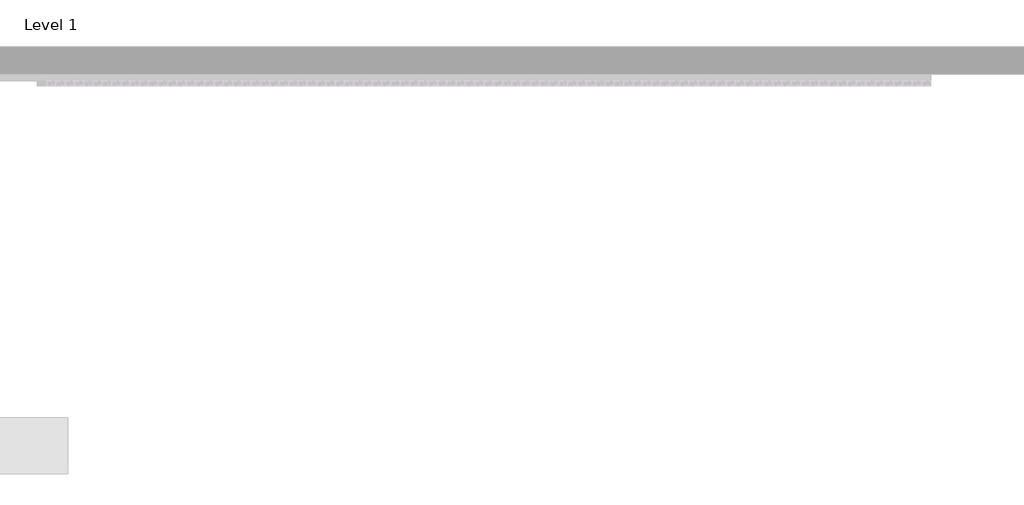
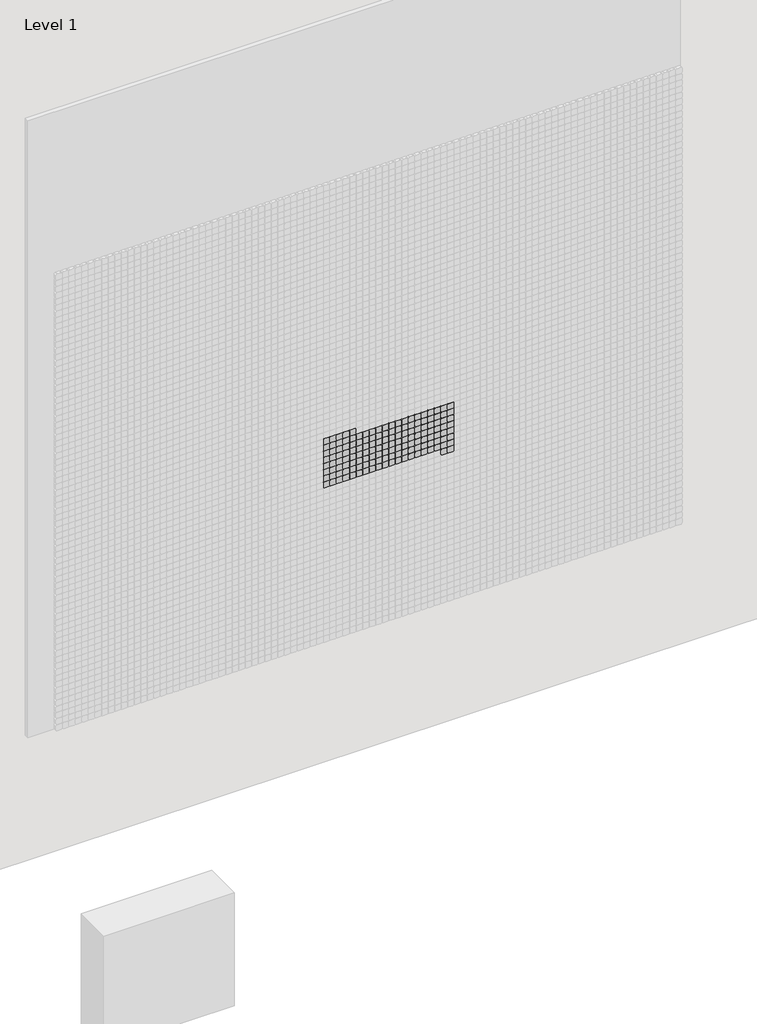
# One storey, part 44 of 71: 147 proxies.
"""IFC4 building model written with IfcOpenShell, lengths in millimetres."""

from ifc_helpers import new_model, si_unit, origin, place, context, project, spatial, transform, mapped, element, save
from components import generic_models_afde289c

model = new_model("IFC4")

# Units and contexts
model_context = context("Model", 3, world=origin())
ifc_project = project(units=[si_unit("LENGTHUNIT", "METRE", prefix="MILLI")], contexts=[model_context])

# Site, building, storey
site = spatial("IfcSite", under=ifc_project)
building = spatial("IfcBuilding", under=site)
storey = spatial("IfcBuildingStorey", under=building, Name="Level 1", Elevation=0.0)

# Proxies
placement = place(None, origin())
generic_models_shape = generic_models_afde289c(model_context)
element("IfcBuildingElementProxy", 1, Name="Pixel_M : Pixel_M", ObjectType="Pixel_M : Pixel_M", at=placement, inside=storey, context=model_context, shape_type="MappedRepresentation", body=[
    mapped(generic_models_shape, transform((7212.4280941, -75.0, 2616.3566215), x_axis=(1.0, 0.0, 0.0), y_axis=(0.0, 0.0, 1.0), z_axis=(0.0, -1.0, 0.0))),
])
element("IfcBuildingElementProxy", 2, Name="Pixel_M : Pixel_M", ObjectType="Pixel_M : Pixel_M", at=placement, inside=storey, context=model_context, shape_type="MappedRepresentation", body=[
    mapped(generic_models_shape, transform((7162.4280941, -75.0, 2616.3566215), x_axis=(1.0, 0.0, 0.0), y_axis=(0.0, 0.0, 1.0), z_axis=(0.0, -1.0, 0.0))),
])
element("IfcBuildingElementProxy", 3, Name="Pixel_M : Pixel_M", ObjectType="Pixel_M : Pixel_M", at=placement, inside=storey, context=model_context, shape_type="MappedRepresentation", body=[
    mapped(generic_models_shape, transform((7112.4280941, -75.0, 2616.3566215), x_axis=(1.0, 0.0, 0.0), y_axis=(0.0, 0.0, 1.0), z_axis=(0.0, -1.0, 0.0))),
])
element("IfcBuildingElementProxy", 4, Name="Pixel_M : Pixel_M", ObjectType="Pixel_M : Pixel_M", at=placement, inside=storey, context=model_context, shape_type="MappedRepresentation", body=[
    mapped(generic_models_shape, transform((7062.4280941, -75.0, 2616.3566215), x_axis=(1.0, 0.0, 0.0), y_axis=(0.0, 0.0, 1.0), z_axis=(0.0, -1.0, 0.0))),
])
element("IfcBuildingElementProxy", 5, Name="Pixel_M : Pixel_M", ObjectType="Pixel_M : Pixel_M", at=placement, inside=storey, context=model_context, shape_type="MappedRepresentation", body=[
    mapped(generic_models_shape, transform((7012.4280941, -75.0, 2616.3566215), x_axis=(1.0, 0.0, 0.0), y_axis=(0.0, 0.0, 1.0), z_axis=(0.0, -1.0, 0.0))),
])
element("IfcBuildingElementProxy", 6, Name="Pixel_M : Pixel_M", ObjectType="Pixel_M : Pixel_M", at=placement, inside=storey, context=model_context, shape_type="MappedRepresentation", body=[
    mapped(generic_models_shape, transform((7962.4280941, -75.0, 2566.3566215), x_axis=(1.0, 0.0, 0.0), y_axis=(0.0, 0.0, 1.0), z_axis=(0.0, -1.0, 0.0))),
])
element("IfcBuildingElementProxy", 7, Name="Pixel_M : Pixel_M", ObjectType="Pixel_M : Pixel_M", at=placement, inside=storey, context=model_context, shape_type="MappedRepresentation", body=[
    mapped(generic_models_shape, transform((7912.4280941, -75.0, 2566.3566215), x_axis=(1.0, 0.0, 0.0), y_axis=(0.0, 0.0, 1.0), z_axis=(0.0, -1.0, 0.0))),
])
element("IfcBuildingElementProxy", 8, Name="Pixel_M : Pixel_M", ObjectType="Pixel_M : Pixel_M", at=placement, inside=storey, context=model_context, shape_type="MappedRepresentation", body=[
    mapped(generic_models_shape, transform((7862.4280941, -75.0, 2566.3566215), x_axis=(1.0, 0.0, 0.0), y_axis=(0.0, 0.0, 1.0), z_axis=(0.0, -1.0, 0.0))),
])
element("IfcBuildingElementProxy", 9, Name="Pixel_M : Pixel_M", ObjectType="Pixel_M : Pixel_M", at=placement, inside=storey, context=model_context, shape_type="MappedRepresentation", body=[
    mapped(generic_models_shape, transform((7812.4280941, -75.0, 2566.3566215), x_axis=(1.0, 0.0, 0.0), y_axis=(0.0, 0.0, 1.0), z_axis=(0.0, -1.0, 0.0))),
])
element("IfcBuildingElementProxy", 10, Name="Pixel_M : Pixel_M", ObjectType="Pixel_M : Pixel_M", at=placement, inside=storey, context=model_context, shape_type="MappedRepresentation", body=[
    mapped(generic_models_shape, transform((7762.4280941, -75.0, 2566.3566215), x_axis=(1.0, 0.0, 0.0), y_axis=(0.0, 0.0, 1.0), z_axis=(0.0, -1.0, 0.0))),
])
element("IfcBuildingElementProxy", 11, Name="Pixel_M : Pixel_M", ObjectType="Pixel_M : Pixel_M", at=placement, inside=storey, context=model_context, shape_type="MappedRepresentation", body=[
    mapped(generic_models_shape, transform((7712.4280941, -75.0, 2566.3566215), x_axis=(1.0, 0.0, 0.0), y_axis=(0.0, 0.0, 1.0), z_axis=(0.0, -1.0, 0.0))),
])
element("IfcBuildingElementProxy", 12, Name="Pixel_M : Pixel_M", ObjectType="Pixel_M : Pixel_M", at=placement, inside=storey, context=model_context, shape_type="MappedRepresentation", body=[
    mapped(generic_models_shape, transform((7662.4280941, -75.0, 2566.3566215), x_axis=(1.0, 0.0, 0.0), y_axis=(0.0, 0.0, 1.0), z_axis=(0.0, -1.0, 0.0))),
])
element("IfcBuildingElementProxy", 13, Name="Pixel_M : Pixel_M", ObjectType="Pixel_M : Pixel_M", at=placement, inside=storey, context=model_context, shape_type="MappedRepresentation", body=[
    mapped(generic_models_shape, transform((7612.4280941, -75.0, 2566.3566215), x_axis=(1.0, 0.0, 0.0), y_axis=(0.0, 0.0, 1.0), z_axis=(0.0, -1.0, 0.0))),
])
element("IfcBuildingElementProxy", 14, Name="Pixel_M : Pixel_M", ObjectType="Pixel_M : Pixel_M", at=placement, inside=storey, context=model_context, shape_type="MappedRepresentation", body=[
    mapped(generic_models_shape, transform((7562.4280941, -75.0, 2566.3566215), x_axis=(1.0, 0.0, 0.0), y_axis=(0.0, 0.0, 1.0), z_axis=(0.0, -1.0, 0.0))),
])
element("IfcBuildingElementProxy", 15, Name="Pixel_M : Pixel_M", ObjectType="Pixel_M : Pixel_M", at=placement, inside=storey, context=model_context, shape_type="MappedRepresentation", body=[
    mapped(generic_models_shape, transform((7512.4280941, -75.0, 2566.3566215), x_axis=(1.0, 0.0, 0.0), y_axis=(0.0, 0.0, 1.0), z_axis=(0.0, -1.0, 0.0))),
])
element("IfcBuildingElementProxy", 16, Name="Pixel_M : Pixel_M", ObjectType="Pixel_M : Pixel_M", at=placement, inside=storey, context=model_context, shape_type="MappedRepresentation", body=[
    mapped(generic_models_shape, transform((7462.4280941, -75.0, 2566.3566215), x_axis=(1.0, 0.0, 0.0), y_axis=(0.0, 0.0, 1.0), z_axis=(0.0, -1.0, 0.0))),
])
element("IfcBuildingElementProxy", 17, Name="Pixel_M : Pixel_M", ObjectType="Pixel_M : Pixel_M", at=placement, inside=storey, context=model_context, shape_type="MappedRepresentation", body=[
    mapped(generic_models_shape, transform((7412.4280941, -75.0, 2566.3566215), x_axis=(1.0, 0.0, 0.0), y_axis=(0.0, 0.0, 1.0), z_axis=(0.0, -1.0, 0.0))),
])
element("IfcBuildingElementProxy", 18, Name="Pixel_M : Pixel_M", ObjectType="Pixel_M : Pixel_M", at=placement, inside=storey, context=model_context, shape_type="MappedRepresentation", body=[
    mapped(generic_models_shape, transform((7362.4280941, -75.0, 2566.3566215), x_axis=(1.0, 0.0, 0.0), y_axis=(0.0, 0.0, 1.0), z_axis=(0.0, -1.0, 0.0))),
])
element("IfcBuildingElementProxy", 19, Name="Pixel_M : Pixel_M", ObjectType="Pixel_M : Pixel_M", at=placement, inside=storey, context=model_context, shape_type="MappedRepresentation", body=[
    mapped(generic_models_shape, transform((7312.4280941, -75.0, 2566.3566215), x_axis=(1.0, 0.0, 0.0), y_axis=(0.0, 0.0, 1.0), z_axis=(0.0, -1.0, 0.0))),
])
element("IfcBuildingElementProxy", 20, Name="Pixel_M : Pixel_M", ObjectType="Pixel_M : Pixel_M", at=placement, inside=storey, context=model_context, shape_type="MappedRepresentation", body=[
    mapped(generic_models_shape, transform((7262.4280941, -75.0, 2566.3566215), x_axis=(1.0, 0.0, 0.0), y_axis=(0.0, 0.0, 1.0), z_axis=(0.0, -1.0, 0.0))),
])
element("IfcBuildingElementProxy", 21, Name="Pixel_M : Pixel_M", ObjectType="Pixel_M : Pixel_M", at=placement, inside=storey, context=model_context, shape_type="MappedRepresentation", body=[
    mapped(generic_models_shape, transform((7212.4280941, -75.0, 2566.3566215), x_axis=(1.0, 0.0, 0.0), y_axis=(0.0, 0.0, 1.0), z_axis=(0.0, -1.0, 0.0))),
])
element("IfcBuildingElementProxy", 22, Name="Pixel_M : Pixel_M", ObjectType="Pixel_M : Pixel_M", at=placement, inside=storey, context=model_context, shape_type="MappedRepresentation", body=[
    mapped(generic_models_shape, transform((7162.4280941, -75.0, 2566.3566215), x_axis=(1.0, 0.0, 0.0), y_axis=(0.0, 0.0, 1.0), z_axis=(0.0, -1.0, 0.0))),
])
element("IfcBuildingElementProxy", 23, Name="Pixel_M : Pixel_M", ObjectType="Pixel_M : Pixel_M", at=placement, inside=storey, context=model_context, shape_type="MappedRepresentation", body=[
    mapped(generic_models_shape, transform((7112.4280941, -75.0, 2566.3566215), x_axis=(1.0, 0.0, 0.0), y_axis=(0.0, 0.0, 1.0), z_axis=(0.0, -1.0, 0.0))),
])
element("IfcBuildingElementProxy", 24, Name="Pixel_M : Pixel_M", ObjectType="Pixel_M : Pixel_M", at=placement, inside=storey, context=model_context, shape_type="MappedRepresentation", body=[
    mapped(generic_models_shape, transform((7062.4280941, -75.0, 2566.3566215), x_axis=(1.0, 0.0, 0.0), y_axis=(0.0, 0.0, 1.0), z_axis=(0.0, -1.0, 0.0))),
])
element("IfcBuildingElementProxy", 25, Name="Pixel_M : Pixel_M", ObjectType="Pixel_M : Pixel_M", at=placement, inside=storey, context=model_context, shape_type="MappedRepresentation", body=[
    mapped(generic_models_shape, transform((7012.4280941, -75.0, 2566.3566215), x_axis=(1.0, 0.0, 0.0), y_axis=(0.0, 0.0, 1.0), z_axis=(0.0, -1.0, 0.0))),
])
element("IfcBuildingElementProxy", 26, Name="Pixel_M : Pixel_M", ObjectType="Pixel_M : Pixel_M", at=placement, inside=storey, context=model_context, shape_type="MappedRepresentation", body=[
    mapped(generic_models_shape, transform((7962.4280941, -75.0, 2516.3566215), x_axis=(1.0, 0.0, 0.0), y_axis=(0.0, 0.0, 1.0), z_axis=(0.0, -1.0, 0.0))),
])
element("IfcBuildingElementProxy", 27, Name="Pixel_M : Pixel_M", ObjectType="Pixel_M : Pixel_M", at=placement, inside=storey, context=model_context, shape_type="MappedRepresentation", body=[
    mapped(generic_models_shape, transform((7912.4280941, -75.0, 2516.3566215), x_axis=(1.0, 0.0, 0.0), y_axis=(0.0, 0.0, 1.0), z_axis=(0.0, -1.0, 0.0))),
])
element("IfcBuildingElementProxy", 28, Name="Pixel_M : Pixel_M", ObjectType="Pixel_M : Pixel_M", at=placement, inside=storey, context=model_context, shape_type="MappedRepresentation", body=[
    mapped(generic_models_shape, transform((7862.4280941, -75.0, 2516.3566215), x_axis=(1.0, 0.0, 0.0), y_axis=(0.0, 0.0, 1.0), z_axis=(0.0, -1.0, 0.0))),
])
element("IfcBuildingElementProxy", 29, Name="Pixel_M : Pixel_M", ObjectType="Pixel_M : Pixel_M", at=placement, inside=storey, context=model_context, shape_type="MappedRepresentation", body=[
    mapped(generic_models_shape, transform((7812.4280941, -75.0, 2516.3566215), x_axis=(1.0, 0.0, 0.0), y_axis=(0.0, 0.0, 1.0), z_axis=(0.0, -1.0, 0.0))),
])
element("IfcBuildingElementProxy", 30, Name="Pixel_M : Pixel_M", ObjectType="Pixel_M : Pixel_M", at=placement, inside=storey, context=model_context, shape_type="MappedRepresentation", body=[
    mapped(generic_models_shape, transform((7762.4280941, -75.0, 2516.3566215), x_axis=(1.0, 0.0, 0.0), y_axis=(0.0, 0.0, 1.0), z_axis=(0.0, -1.0, 0.0))),
])
element("IfcBuildingElementProxy", 31, Name="Pixel_M : Pixel_M", ObjectType="Pixel_M : Pixel_M", at=placement, inside=storey, context=model_context, shape_type="MappedRepresentation", body=[
    mapped(generic_models_shape, transform((7712.4280941, -75.0, 2516.3566215), x_axis=(1.0, 0.0, 0.0), y_axis=(0.0, 0.0, 1.0), z_axis=(0.0, -1.0, 0.0))),
])
element("IfcBuildingElementProxy", 32, Name="Pixel_M : Pixel_M", ObjectType="Pixel_M : Pixel_M", at=placement, inside=storey, context=model_context, shape_type="MappedRepresentation", body=[
    mapped(generic_models_shape, transform((7662.4280941, -75.0, 2516.3566215), x_axis=(1.0, 0.0, 0.0), y_axis=(0.0, 0.0, 1.0), z_axis=(0.0, -1.0, 0.0))),
])
element("IfcBuildingElementProxy", 33, Name="Pixel_M : Pixel_M", ObjectType="Pixel_M : Pixel_M", at=placement, inside=storey, context=model_context, shape_type="MappedRepresentation", body=[
    mapped(generic_models_shape, transform((7612.4280941, -75.0, 2516.3566215), x_axis=(1.0, 0.0, 0.0), y_axis=(0.0, 0.0, 1.0), z_axis=(0.0, -1.0, 0.0))),
])
element("IfcBuildingElementProxy", 34, Name="Pixel_M : Pixel_M", ObjectType="Pixel_M : Pixel_M", at=placement, inside=storey, context=model_context, shape_type="MappedRepresentation", body=[
    mapped(generic_models_shape, transform((7562.4280941, -75.0, 2516.3566215), x_axis=(1.0, 0.0, 0.0), y_axis=(0.0, 0.0, 1.0), z_axis=(0.0, -1.0, 0.0))),
])
element("IfcBuildingElementProxy", 35, Name="Pixel_M : Pixel_M", ObjectType="Pixel_M : Pixel_M", at=placement, inside=storey, context=model_context, shape_type="MappedRepresentation", body=[
    mapped(generic_models_shape, transform((7512.4280941, -75.0, 2516.3566215), x_axis=(1.0, 0.0, 0.0), y_axis=(0.0, 0.0, 1.0), z_axis=(0.0, -1.0, 0.0))),
])
element("IfcBuildingElementProxy", 36, Name="Pixel_M : Pixel_M", ObjectType="Pixel_M : Pixel_M", at=placement, inside=storey, context=model_context, shape_type="MappedRepresentation", body=[
    mapped(generic_models_shape, transform((7462.4280941, -75.0, 2516.3566215), x_axis=(1.0, 0.0, 0.0), y_axis=(0.0, 0.0, 1.0), z_axis=(0.0, -1.0, 0.0))),
])
element("IfcBuildingElementProxy", 37, Name="Pixel_M : Pixel_M", ObjectType="Pixel_M : Pixel_M", at=placement, inside=storey, context=model_context, shape_type="MappedRepresentation", body=[
    mapped(generic_models_shape, transform((7412.4280941, -75.0, 2516.3566215), x_axis=(1.0, 0.0, 0.0), y_axis=(0.0, 0.0, 1.0), z_axis=(0.0, -1.0, 0.0))),
])
element("IfcBuildingElementProxy", 38, Name="Pixel_M : Pixel_M", ObjectType="Pixel_M : Pixel_M", at=placement, inside=storey, context=model_context, shape_type="MappedRepresentation", body=[
    mapped(generic_models_shape, transform((7362.4280941, -75.0, 2516.3566215), x_axis=(1.0, 0.0, 0.0), y_axis=(0.0, 0.0, 1.0), z_axis=(0.0, -1.0, 0.0))),
])
element("IfcBuildingElementProxy", 39, Name="Pixel_M : Pixel_M", ObjectType="Pixel_M : Pixel_M", at=placement, inside=storey, context=model_context, shape_type="MappedRepresentation", body=[
    mapped(generic_models_shape, transform((7312.4280941, -75.0, 2516.3566215), x_axis=(1.0, 0.0, 0.0), y_axis=(0.0, 0.0, 1.0), z_axis=(0.0, -1.0, 0.0))),
])
element("IfcBuildingElementProxy", 40, Name="Pixel_M : Pixel_M", ObjectType="Pixel_M : Pixel_M", at=placement, inside=storey, context=model_context, shape_type="MappedRepresentation", body=[
    mapped(generic_models_shape, transform((7262.4280941, -75.0, 2516.3566215), x_axis=(1.0, 0.0, 0.0), y_axis=(0.0, 0.0, 1.0), z_axis=(0.0, -1.0, 0.0))),
])
element("IfcBuildingElementProxy", 41, Name="Pixel_M : Pixel_M", ObjectType="Pixel_M : Pixel_M", at=placement, inside=storey, context=model_context, shape_type="MappedRepresentation", body=[
    mapped(generic_models_shape, transform((7212.4280941, -75.0, 2516.3566215), x_axis=(1.0, 0.0, 0.0), y_axis=(0.0, 0.0, 1.0), z_axis=(0.0, -1.0, 0.0))),
])
element("IfcBuildingElementProxy", 42, Name="Pixel_M : Pixel_M", ObjectType="Pixel_M : Pixel_M", at=placement, inside=storey, context=model_context, shape_type="MappedRepresentation", body=[
    mapped(generic_models_shape, transform((7162.4280941, -75.0, 2516.3566215), x_axis=(1.0, 0.0, 0.0), y_axis=(0.0, 0.0, 1.0), z_axis=(0.0, -1.0, 0.0))),
])
element("IfcBuildingElementProxy", 43, Name="Pixel_M : Pixel_M", ObjectType="Pixel_M : Pixel_M", at=placement, inside=storey, context=model_context, shape_type="MappedRepresentation", body=[
    mapped(generic_models_shape, transform((7112.4280941, -75.0, 2516.3566215), x_axis=(1.0, 0.0, 0.0), y_axis=(0.0, 0.0, 1.0), z_axis=(0.0, -1.0, 0.0))),
])
element("IfcBuildingElementProxy", 44, Name="Pixel_M : Pixel_M", ObjectType="Pixel_M : Pixel_M", at=placement, inside=storey, context=model_context, shape_type="MappedRepresentation", body=[
    mapped(generic_models_shape, transform((7062.4280941, -75.0, 2516.3566215), x_axis=(1.0, 0.0, 0.0), y_axis=(0.0, 0.0, 1.0), z_axis=(0.0, -1.0, 0.0))),
])
element("IfcBuildingElementProxy", 45, Name="Pixel_M : Pixel_M", ObjectType="Pixel_M : Pixel_M", at=placement, inside=storey, context=model_context, shape_type="MappedRepresentation", body=[
    mapped(generic_models_shape, transform((7012.4280941, -75.0, 2516.3566215), x_axis=(1.0, 0.0, 0.0), y_axis=(0.0, 0.0, 1.0), z_axis=(0.0, -1.0, 0.0))),
])
element("IfcBuildingElementProxy", 46, Name="Pixel_M : Pixel_M", ObjectType="Pixel_M : Pixel_M", at=placement, inside=storey, context=model_context, shape_type="MappedRepresentation", body=[
    mapped(generic_models_shape, transform((7962.4280941, -75.0, 2466.3566215), x_axis=(1.0, 0.0, 0.0), y_axis=(0.0, 0.0, 1.0), z_axis=(0.0, -1.0, 0.0))),
])
element("IfcBuildingElementProxy", 47, Name="Pixel_M : Pixel_M", ObjectType="Pixel_M : Pixel_M", at=placement, inside=storey, context=model_context, shape_type="MappedRepresentation", body=[
    mapped(generic_models_shape, transform((7912.4280941, -75.0, 2466.3566215), x_axis=(1.0, 0.0, 0.0), y_axis=(0.0, 0.0, 1.0), z_axis=(0.0, -1.0, 0.0))),
])
element("IfcBuildingElementProxy", 48, Name="Pixel_M : Pixel_M", ObjectType="Pixel_M : Pixel_M", at=placement, inside=storey, context=model_context, shape_type="MappedRepresentation", body=[
    mapped(generic_models_shape, transform((7862.4280941, -75.0, 2466.3566215), x_axis=(1.0, 0.0, 0.0), y_axis=(0.0, 0.0, 1.0), z_axis=(0.0, -1.0, 0.0))),
])
element("IfcBuildingElementProxy", 49, Name="Pixel_M : Pixel_M", ObjectType="Pixel_M : Pixel_M", at=placement, inside=storey, context=model_context, shape_type="MappedRepresentation", body=[
    mapped(generic_models_shape, transform((7812.4280941, -75.0, 2466.3566215), x_axis=(1.0, 0.0, 0.0), y_axis=(0.0, 0.0, 1.0), z_axis=(0.0, -1.0, 0.0))),
])
element("IfcBuildingElementProxy", 50, Name="Pixel_M : Pixel_M", ObjectType="Pixel_M : Pixel_M", at=placement, inside=storey, context=model_context, shape_type="MappedRepresentation", body=[
    mapped(generic_models_shape, transform((7762.4280941, -75.0, 2466.3566215), x_axis=(1.0, 0.0, 0.0), y_axis=(0.0, 0.0, 1.0), z_axis=(0.0, -1.0, 0.0))),
])
element("IfcBuildingElementProxy", 51, Name="Pixel_M : Pixel_M", ObjectType="Pixel_M : Pixel_M", at=placement, inside=storey, context=model_context, shape_type="MappedRepresentation", body=[
    mapped(generic_models_shape, transform((7712.4280941, -75.0, 2466.3566215), x_axis=(1.0, 0.0, 0.0), y_axis=(0.0, 0.0, 1.0), z_axis=(0.0, -1.0, 0.0))),
])
element("IfcBuildingElementProxy", 52, Name="Pixel_M : Pixel_M", ObjectType="Pixel_M : Pixel_M", at=placement, inside=storey, context=model_context, shape_type="MappedRepresentation", body=[
    mapped(generic_models_shape, transform((7662.4280941, -75.0, 2466.3566215), x_axis=(1.0, 0.0, 0.0), y_axis=(0.0, 0.0, 1.0), z_axis=(0.0, -1.0, 0.0))),
])
element("IfcBuildingElementProxy", 53, Name="Pixel_M : Pixel_M", ObjectType="Pixel_M : Pixel_M", at=placement, inside=storey, context=model_context, shape_type="MappedRepresentation", body=[
    mapped(generic_models_shape, transform((7612.4280941, -75.0, 2466.3566215), x_axis=(1.0, 0.0, 0.0), y_axis=(0.0, 0.0, 1.0), z_axis=(0.0, -1.0, 0.0))),
])
element("IfcBuildingElementProxy", 54, Name="Pixel_M : Pixel_M", ObjectType="Pixel_M : Pixel_M", at=placement, inside=storey, context=model_context, shape_type="MappedRepresentation", body=[
    mapped(generic_models_shape, transform((7562.4280941, -75.0, 2466.3566215), x_axis=(1.0, 0.0, 0.0), y_axis=(0.0, 0.0, 1.0), z_axis=(0.0, -1.0, 0.0))),
])
element("IfcBuildingElementProxy", 55, Name="Pixel_M : Pixel_M", ObjectType="Pixel_M : Pixel_M", at=placement, inside=storey, context=model_context, shape_type="MappedRepresentation", body=[
    mapped(generic_models_shape, transform((7512.4280941, -75.0, 2466.3566215), x_axis=(1.0, 0.0, 0.0), y_axis=(0.0, 0.0, 1.0), z_axis=(0.0, -1.0, 0.0))),
])
element("IfcBuildingElementProxy", 56, Name="Pixel_M : Pixel_M", ObjectType="Pixel_M : Pixel_M", at=placement, inside=storey, context=model_context, shape_type="MappedRepresentation", body=[
    mapped(generic_models_shape, transform((7462.4280941, -75.0, 2466.3566215), x_axis=(1.0, 0.0, 0.0), y_axis=(0.0, 0.0, 1.0), z_axis=(0.0, -1.0, 0.0))),
])
element("IfcBuildingElementProxy", 57, Name="Pixel_M : Pixel_M", ObjectType="Pixel_M : Pixel_M", at=placement, inside=storey, context=model_context, shape_type="MappedRepresentation", body=[
    mapped(generic_models_shape, transform((7412.4280941, -75.0, 2466.3566215), x_axis=(1.0, 0.0, 0.0), y_axis=(0.0, 0.0, 1.0), z_axis=(0.0, -1.0, 0.0))),
])
element("IfcBuildingElementProxy", 58, Name="Pixel_M : Pixel_M", ObjectType="Pixel_M : Pixel_M", at=placement, inside=storey, context=model_context, shape_type="MappedRepresentation", body=[
    mapped(generic_models_shape, transform((7362.4280941, -75.0, 2466.3566215), x_axis=(1.0, 0.0, 0.0), y_axis=(0.0, 0.0, 1.0), z_axis=(0.0, -1.0, 0.0))),
])
element("IfcBuildingElementProxy", 59, Name="Pixel_M : Pixel_M", ObjectType="Pixel_M : Pixel_M", at=placement, inside=storey, context=model_context, shape_type="MappedRepresentation", body=[
    mapped(generic_models_shape, transform((7312.4280941, -75.0, 2466.3566215), x_axis=(1.0, 0.0, 0.0), y_axis=(0.0, 0.0, 1.0), z_axis=(0.0, -1.0, 0.0))),
])
element("IfcBuildingElementProxy", 60, Name="Pixel_M : Pixel_M", ObjectType="Pixel_M : Pixel_M", at=placement, inside=storey, context=model_context, shape_type="MappedRepresentation", body=[
    mapped(generic_models_shape, transform((7262.4280941, -75.0, 2466.3566215), x_axis=(1.0, 0.0, 0.0), y_axis=(0.0, 0.0, 1.0), z_axis=(0.0, -1.0, 0.0))),
])
element("IfcBuildingElementProxy", 61, Name="Pixel_M : Pixel_M", ObjectType="Pixel_M : Pixel_M", at=placement, inside=storey, context=model_context, shape_type="MappedRepresentation", body=[
    mapped(generic_models_shape, transform((7212.4280941, -75.0, 2466.3566215), x_axis=(1.0, 0.0, 0.0), y_axis=(0.0, 0.0, 1.0), z_axis=(0.0, -1.0, 0.0))),
])
element("IfcBuildingElementProxy", 62, Name="Pixel_M : Pixel_M", ObjectType="Pixel_M : Pixel_M", at=placement, inside=storey, context=model_context, shape_type="MappedRepresentation", body=[
    mapped(generic_models_shape, transform((7162.4280941, -75.0, 2466.3566215), x_axis=(1.0, 0.0, 0.0), y_axis=(0.0, 0.0, 1.0), z_axis=(0.0, -1.0, 0.0))),
])
element("IfcBuildingElementProxy", 63, Name="Pixel_M : Pixel_M", ObjectType="Pixel_M : Pixel_M", at=placement, inside=storey, context=model_context, shape_type="MappedRepresentation", body=[
    mapped(generic_models_shape, transform((7112.4280941, -75.0, 2466.3566215), x_axis=(1.0, 0.0, 0.0), y_axis=(0.0, 0.0, 1.0), z_axis=(0.0, -1.0, 0.0))),
])
element("IfcBuildingElementProxy", 64, Name="Pixel_M : Pixel_M", ObjectType="Pixel_M : Pixel_M", at=placement, inside=storey, context=model_context, shape_type="MappedRepresentation", body=[
    mapped(generic_models_shape, transform((7062.4280941, -75.0, 2466.3566215), x_axis=(1.0, 0.0, 0.0), y_axis=(0.0, 0.0, 1.0), z_axis=(0.0, -1.0, 0.0))),
])
element("IfcBuildingElementProxy", 65, Name="Pixel_M : Pixel_M", ObjectType="Pixel_M : Pixel_M", at=placement, inside=storey, context=model_context, shape_type="MappedRepresentation", body=[
    mapped(generic_models_shape, transform((7012.4280941, -75.0, 2466.3566215), x_axis=(1.0, 0.0, 0.0), y_axis=(0.0, 0.0, 1.0), z_axis=(0.0, -1.0, 0.0))),
])
element("IfcBuildingElementProxy", 66, Name="Pixel_M : Pixel_M", ObjectType="Pixel_M : Pixel_M", at=placement, inside=storey, context=model_context, shape_type="MappedRepresentation", body=[
    mapped(generic_models_shape, transform((7962.4280941, -75.0, 2416.3566215), x_axis=(1.0, 0.0, 0.0), y_axis=(0.0, 0.0, 1.0), z_axis=(0.0, -1.0, 0.0))),
])
element("IfcBuildingElementProxy", 67, Name="Pixel_M : Pixel_M", ObjectType="Pixel_M : Pixel_M", at=placement, inside=storey, context=model_context, shape_type="MappedRepresentation", body=[
    mapped(generic_models_shape, transform((7912.4280941, -75.0, 2416.3566215), x_axis=(1.0, 0.0, 0.0), y_axis=(0.0, 0.0, 1.0), z_axis=(0.0, -1.0, 0.0))),
])
element("IfcBuildingElementProxy", 68, Name="Pixel_M : Pixel_M", ObjectType="Pixel_M : Pixel_M", at=placement, inside=storey, context=model_context, shape_type="MappedRepresentation", body=[
    mapped(generic_models_shape, transform((7862.4280941, -75.0, 2416.3566215), x_axis=(1.0, 0.0, 0.0), y_axis=(0.0, 0.0, 1.0), z_axis=(0.0, -1.0, 0.0))),
])
element("IfcBuildingElementProxy", 69, Name="Pixel_M : Pixel_M", ObjectType="Pixel_M : Pixel_M", at=placement, inside=storey, context=model_context, shape_type="MappedRepresentation", body=[
    mapped(generic_models_shape, transform((7812.4280941, -75.0, 2416.3566215), x_axis=(1.0, 0.0, 0.0), y_axis=(0.0, 0.0, 1.0), z_axis=(0.0, -1.0, 0.0))),
])
element("IfcBuildingElementProxy", 70, Name="Pixel_M : Pixel_M", ObjectType="Pixel_M : Pixel_M", at=placement, inside=storey, context=model_context, shape_type="MappedRepresentation", body=[
    mapped(generic_models_shape, transform((7762.4280941, -75.0, 2416.3566215), x_axis=(1.0, 0.0, 0.0), y_axis=(0.0, 0.0, 1.0), z_axis=(0.0, -1.0, 0.0))),
])
element("IfcBuildingElementProxy", 71, Name="Pixel_M : Pixel_M", ObjectType="Pixel_M : Pixel_M", at=placement, inside=storey, context=model_context, shape_type="MappedRepresentation", body=[
    mapped(generic_models_shape, transform((7712.4280941, -75.0, 2416.3566215), x_axis=(1.0, 0.0, 0.0), y_axis=(0.0, 0.0, 1.0), z_axis=(0.0, -1.0, 0.0))),
])
element("IfcBuildingElementProxy", 72, Name="Pixel_M : Pixel_M", ObjectType="Pixel_M : Pixel_M", at=placement, inside=storey, context=model_context, shape_type="MappedRepresentation", body=[
    mapped(generic_models_shape, transform((7662.4280941, -75.0, 2416.3566215), x_axis=(1.0, 0.0, 0.0), y_axis=(0.0, 0.0, 1.0), z_axis=(0.0, -1.0, 0.0))),
])
element("IfcBuildingElementProxy", 73, Name="Pixel_M : Pixel_M", ObjectType="Pixel_M : Pixel_M", at=placement, inside=storey, context=model_context, shape_type="MappedRepresentation", body=[
    mapped(generic_models_shape, transform((7612.4280941, -75.0, 2416.3566215), x_axis=(1.0, 0.0, 0.0), y_axis=(0.0, 0.0, 1.0), z_axis=(0.0, -1.0, 0.0))),
])
element("IfcBuildingElementProxy", 74, Name="Pixel_M : Pixel_M", ObjectType="Pixel_M : Pixel_M", at=placement, inside=storey, context=model_context, shape_type="MappedRepresentation", body=[
    mapped(generic_models_shape, transform((7562.4280941, -75.0, 2416.3566215), x_axis=(1.0, 0.0, 0.0), y_axis=(0.0, 0.0, 1.0), z_axis=(0.0, -1.0, 0.0))),
])
element("IfcBuildingElementProxy", 75, Name="Pixel_M : Pixel_M", ObjectType="Pixel_M : Pixel_M", at=placement, inside=storey, context=model_context, shape_type="MappedRepresentation", body=[
    mapped(generic_models_shape, transform((7512.4280941, -75.0, 2416.3566215), x_axis=(1.0, 0.0, 0.0), y_axis=(0.0, 0.0, 1.0), z_axis=(0.0, -1.0, 0.0))),
])
element("IfcBuildingElementProxy", 76, Name="Pixel_M : Pixel_M", ObjectType="Pixel_M : Pixel_M", at=placement, inside=storey, context=model_context, shape_type="MappedRepresentation", body=[
    mapped(generic_models_shape, transform((7462.4280941, -75.0, 2416.3566215), x_axis=(1.0, 0.0, 0.0), y_axis=(0.0, 0.0, 1.0), z_axis=(0.0, -1.0, 0.0))),
])
element("IfcBuildingElementProxy", 77, Name="Pixel_M : Pixel_M", ObjectType="Pixel_M : Pixel_M", at=placement, inside=storey, context=model_context, shape_type="MappedRepresentation", body=[
    mapped(generic_models_shape, transform((7412.4280941, -75.0, 2416.3566215), x_axis=(1.0, 0.0, 0.0), y_axis=(0.0, 0.0, 1.0), z_axis=(0.0, -1.0, 0.0))),
])
element("IfcBuildingElementProxy", 78, Name="Pixel_M : Pixel_M", ObjectType="Pixel_M : Pixel_M", at=placement, inside=storey, context=model_context, shape_type="MappedRepresentation", body=[
    mapped(generic_models_shape, transform((7362.4280941, -75.0, 2416.3566215), x_axis=(1.0, 0.0, 0.0), y_axis=(0.0, 0.0, 1.0), z_axis=(0.0, -1.0, 0.0))),
])
element("IfcBuildingElementProxy", 79, Name="Pixel_M : Pixel_M", ObjectType="Pixel_M : Pixel_M", at=placement, inside=storey, context=model_context, shape_type="MappedRepresentation", body=[
    mapped(generic_models_shape, transform((7312.4280941, -75.0, 2416.3566215), x_axis=(1.0, 0.0, 0.0), y_axis=(0.0, 0.0, 1.0), z_axis=(0.0, -1.0, 0.0))),
])
element("IfcBuildingElementProxy", 80, Name="Pixel_M : Pixel_M", ObjectType="Pixel_M : Pixel_M", at=placement, inside=storey, context=model_context, shape_type="MappedRepresentation", body=[
    mapped(generic_models_shape, transform((7262.4280941, -75.0, 2416.3566215), x_axis=(1.0, 0.0, 0.0), y_axis=(0.0, 0.0, 1.0), z_axis=(0.0, -1.0, 0.0))),
])
element("IfcBuildingElementProxy", 81, Name="Pixel_M : Pixel_M", ObjectType="Pixel_M : Pixel_M", at=placement, inside=storey, context=model_context, shape_type="MappedRepresentation", body=[
    mapped(generic_models_shape, transform((7212.4280941, -75.0, 2416.3566215), x_axis=(1.0, 0.0, 0.0), y_axis=(0.0, 0.0, 1.0), z_axis=(0.0, -1.0, 0.0))),
])
element("IfcBuildingElementProxy", 82, Name="Pixel_M : Pixel_M", ObjectType="Pixel_M : Pixel_M", at=placement, inside=storey, context=model_context, shape_type="MappedRepresentation", body=[
    mapped(generic_models_shape, transform((7162.4280941, -75.0, 2416.3566215), x_axis=(1.0, 0.0, 0.0), y_axis=(0.0, 0.0, 1.0), z_axis=(0.0, -1.0, 0.0))),
])
element("IfcBuildingElementProxy", 83, Name="Pixel_M : Pixel_M", ObjectType="Pixel_M : Pixel_M", at=placement, inside=storey, context=model_context, shape_type="MappedRepresentation", body=[
    mapped(generic_models_shape, transform((7112.4280941, -75.0, 2416.3566215), x_axis=(1.0, 0.0, 0.0), y_axis=(0.0, 0.0, 1.0), z_axis=(0.0, -1.0, 0.0))),
])
element("IfcBuildingElementProxy", 84, Name="Pixel_M : Pixel_M", ObjectType="Pixel_M : Pixel_M", at=placement, inside=storey, context=model_context, shape_type="MappedRepresentation", body=[
    mapped(generic_models_shape, transform((7062.4280941, -75.0, 2416.3566215), x_axis=(1.0, 0.0, 0.0), y_axis=(0.0, 0.0, 1.0), z_axis=(0.0, -1.0, 0.0))),
])
element("IfcBuildingElementProxy", 85, Name="Pixel_M : Pixel_M", ObjectType="Pixel_M : Pixel_M", at=placement, inside=storey, context=model_context, shape_type="MappedRepresentation", body=[
    mapped(generic_models_shape, transform((7012.4280941, -75.0, 2416.3566215), x_axis=(1.0, 0.0, 0.0), y_axis=(0.0, 0.0, 1.0), z_axis=(0.0, -1.0, 0.0))),
])
element("IfcBuildingElementProxy", 86, Name="Pixel_M : Pixel_M", ObjectType="Pixel_M : Pixel_M", at=placement, inside=storey, context=model_context, shape_type="MappedRepresentation", body=[
    mapped(generic_models_shape, transform((7962.4280941, -75.0, 2366.3566215), x_axis=(1.0, 0.0, 0.0), y_axis=(0.0, 0.0, 1.0), z_axis=(0.0, -1.0, 0.0))),
])
element("IfcBuildingElementProxy", 87, Name="Pixel_M : Pixel_M", ObjectType="Pixel_M : Pixel_M", at=placement, inside=storey, context=model_context, shape_type="MappedRepresentation", body=[
    mapped(generic_models_shape, transform((7912.4280941, -75.0, 2366.3566215), x_axis=(1.0, 0.0, 0.0), y_axis=(0.0, 0.0, 1.0), z_axis=(0.0, -1.0, 0.0))),
])
element("IfcBuildingElementProxy", 88, Name="Pixel_M : Pixel_M", ObjectType="Pixel_M : Pixel_M", at=placement, inside=storey, context=model_context, shape_type="MappedRepresentation", body=[
    mapped(generic_models_shape, transform((7862.4280941, -75.0, 2366.3566215), x_axis=(1.0, 0.0, 0.0), y_axis=(0.0, 0.0, 1.0), z_axis=(0.0, -1.0, 0.0))),
])
element("IfcBuildingElementProxy", 89, Name="Pixel_M : Pixel_M", ObjectType="Pixel_M : Pixel_M", at=placement, inside=storey, context=model_context, shape_type="MappedRepresentation", body=[
    mapped(generic_models_shape, transform((7812.4280941, -75.0, 2366.3566215), x_axis=(1.0, 0.0, 0.0), y_axis=(0.0, 0.0, 1.0), z_axis=(0.0, -1.0, 0.0))),
])
element("IfcBuildingElementProxy", 90, Name="Pixel_M : Pixel_M", ObjectType="Pixel_M : Pixel_M", at=placement, inside=storey, context=model_context, shape_type="MappedRepresentation", body=[
    mapped(generic_models_shape, transform((7762.4280941, -75.0, 2366.3566215), x_axis=(1.0, 0.0, 0.0), y_axis=(0.0, 0.0, 1.0), z_axis=(0.0, -1.0, 0.0))),
])
element("IfcBuildingElementProxy", 91, Name="Pixel_M : Pixel_M", ObjectType="Pixel_M : Pixel_M", at=placement, inside=storey, context=model_context, shape_type="MappedRepresentation", body=[
    mapped(generic_models_shape, transform((7712.4280941, -75.0, 2366.3566215), x_axis=(1.0, 0.0, 0.0), y_axis=(0.0, 0.0, 1.0), z_axis=(0.0, -1.0, 0.0))),
])
element("IfcBuildingElementProxy", 92, Name="Pixel_M : Pixel_M", ObjectType="Pixel_M : Pixel_M", at=placement, inside=storey, context=model_context, shape_type="MappedRepresentation", body=[
    mapped(generic_models_shape, transform((7662.4280941, -75.0, 2366.3566215), x_axis=(1.0, 0.0, 0.0), y_axis=(0.0, 0.0, 1.0), z_axis=(0.0, -1.0, 0.0))),
])
element("IfcBuildingElementProxy", 93, Name="Pixel_M : Pixel_M", ObjectType="Pixel_M : Pixel_M", at=placement, inside=storey, context=model_context, shape_type="MappedRepresentation", body=[
    mapped(generic_models_shape, transform((7612.4280941, -75.0, 2366.3566215), x_axis=(1.0, 0.0, 0.0), y_axis=(0.0, 0.0, 1.0), z_axis=(0.0, -1.0, 0.0))),
])
element("IfcBuildingElementProxy", 94, Name="Pixel_M : Pixel_M", ObjectType="Pixel_M : Pixel_M", at=placement, inside=storey, context=model_context, shape_type="MappedRepresentation", body=[
    mapped(generic_models_shape, transform((7562.4280941, -75.0, 2366.3566215), x_axis=(1.0, 0.0, 0.0), y_axis=(0.0, 0.0, 1.0), z_axis=(0.0, -1.0, 0.0))),
])
element("IfcBuildingElementProxy", 95, Name="Pixel_M : Pixel_M", ObjectType="Pixel_M : Pixel_M", at=placement, inside=storey, context=model_context, shape_type="MappedRepresentation", body=[
    mapped(generic_models_shape, transform((7512.4280941, -75.0, 2366.3566215), x_axis=(1.0, 0.0, 0.0), y_axis=(0.0, 0.0, 1.0), z_axis=(0.0, -1.0, 0.0))),
])
element("IfcBuildingElementProxy", 96, Name="Pixel_M : Pixel_M", ObjectType="Pixel_M : Pixel_M", at=placement, inside=storey, context=model_context, shape_type="MappedRepresentation", body=[
    mapped(generic_models_shape, transform((7462.4280941, -75.0, 2366.3566215), x_axis=(1.0, 0.0, 0.0), y_axis=(0.0, 0.0, 1.0), z_axis=(0.0, -1.0, 0.0))),
])
element("IfcBuildingElementProxy", 97, Name="Pixel_M : Pixel_M", ObjectType="Pixel_M : Pixel_M", at=placement, inside=storey, context=model_context, shape_type="MappedRepresentation", body=[
    mapped(generic_models_shape, transform((7412.4280941, -75.0, 2366.3566215), x_axis=(1.0, 0.0, 0.0), y_axis=(0.0, 0.0, 1.0), z_axis=(0.0, -1.0, 0.0))),
])
element("IfcBuildingElementProxy", 98, Name="Pixel_M : Pixel_M", ObjectType="Pixel_M : Pixel_M", at=placement, inside=storey, context=model_context, shape_type="MappedRepresentation", body=[
    mapped(generic_models_shape, transform((7362.4280941, -75.0, 2366.3566215), x_axis=(1.0, 0.0, 0.0), y_axis=(0.0, 0.0, 1.0), z_axis=(0.0, -1.0, 0.0))),
])
element("IfcBuildingElementProxy", 99, Name="Pixel_M : Pixel_M", ObjectType="Pixel_M : Pixel_M", at=placement, inside=storey, context=model_context, shape_type="MappedRepresentation", body=[
    mapped(generic_models_shape, transform((7312.4280941, -75.0, 2366.3566215), x_axis=(1.0, 0.0, 0.0), y_axis=(0.0, 0.0, 1.0), z_axis=(0.0, -1.0, 0.0))),
])
element("IfcBuildingElementProxy", 100, Name="Pixel_M : Pixel_M", ObjectType="Pixel_M : Pixel_M", at=placement, inside=storey, context=model_context, shape_type="MappedRepresentation", body=[
    mapped(generic_models_shape, transform((7262.4280941, -75.0, 2366.3566215), x_axis=(1.0, 0.0, 0.0), y_axis=(0.0, 0.0, 1.0), z_axis=(0.0, -1.0, 0.0))),
])
element("IfcBuildingElementProxy", 101, Name="Pixel_M : Pixel_M", ObjectType="Pixel_M : Pixel_M", at=placement, inside=storey, context=model_context, shape_type="MappedRepresentation", body=[
    mapped(generic_models_shape, transform((7212.4280941, -75.0, 2366.3566215), x_axis=(1.0, 0.0, 0.0), y_axis=(0.0, 0.0, 1.0), z_axis=(0.0, -1.0, 0.0))),
])
element("IfcBuildingElementProxy", 102, Name="Pixel_M : Pixel_M", ObjectType="Pixel_M : Pixel_M", at=placement, inside=storey, context=model_context, shape_type="MappedRepresentation", body=[
    mapped(generic_models_shape, transform((7162.4280941, -75.0, 2366.3566215), x_axis=(1.0, 0.0, 0.0), y_axis=(0.0, 0.0, 1.0), z_axis=(0.0, -1.0, 0.0))),
])
element("IfcBuildingElementProxy", 103, Name="Pixel_M : Pixel_M", ObjectType="Pixel_M : Pixel_M", at=placement, inside=storey, context=model_context, shape_type="MappedRepresentation", body=[
    mapped(generic_models_shape, transform((7112.4280941, -75.0, 2366.3566215), x_axis=(1.0, 0.0, 0.0), y_axis=(0.0, 0.0, 1.0), z_axis=(0.0, -1.0, 0.0))),
])
element("IfcBuildingElementProxy", 104, Name="Pixel_M : Pixel_M", ObjectType="Pixel_M : Pixel_M", at=placement, inside=storey, context=model_context, shape_type="MappedRepresentation", body=[
    mapped(generic_models_shape, transform((7062.4280941, -75.0, 2366.3566215), x_axis=(1.0, 0.0, 0.0), y_axis=(0.0, 0.0, 1.0), z_axis=(0.0, -1.0, 0.0))),
])
element("IfcBuildingElementProxy", 105, Name="Pixel_M : Pixel_M", ObjectType="Pixel_M : Pixel_M", at=placement, inside=storey, context=model_context, shape_type="MappedRepresentation", body=[
    mapped(generic_models_shape, transform((7012.4280941, -75.0, 2366.3566215), x_axis=(1.0, 0.0, 0.0), y_axis=(0.0, 0.0, 1.0), z_axis=(0.0, -1.0, 0.0))),
])
element("IfcBuildingElementProxy", 106, Name="Pixel_M : Pixel_M", ObjectType="Pixel_M : Pixel_M", at=placement, inside=storey, context=model_context, shape_type="MappedRepresentation", body=[
    mapped(generic_models_shape, transform((7962.4280941, -75.0, 2316.3566215), x_axis=(1.0, 0.0, 0.0), y_axis=(0.0, 0.0, 1.0), z_axis=(0.0, -1.0, 0.0))),
])
element("IfcBuildingElementProxy", 107, Name="Pixel_M : Pixel_M", ObjectType="Pixel_M : Pixel_M", at=placement, inside=storey, context=model_context, shape_type="MappedRepresentation", body=[
    mapped(generic_models_shape, transform((7912.4280941, -75.0, 2316.3566215), x_axis=(1.0, 0.0, 0.0), y_axis=(0.0, 0.0, 1.0), z_axis=(0.0, -1.0, 0.0))),
])
element("IfcBuildingElementProxy", 108, Name="Pixel_M : Pixel_M", ObjectType="Pixel_M : Pixel_M", at=placement, inside=storey, context=model_context, shape_type="MappedRepresentation", body=[
    mapped(generic_models_shape, transform((7862.4280941, -75.0, 2316.3566215), x_axis=(1.0, 0.0, 0.0), y_axis=(0.0, 0.0, 1.0), z_axis=(0.0, -1.0, 0.0))),
])
element("IfcBuildingElementProxy", 109, Name="Pixel_M : Pixel_M", ObjectType="Pixel_M : Pixel_M", at=placement, inside=storey, context=model_context, shape_type="MappedRepresentation", body=[
    mapped(generic_models_shape, transform((7812.4280941, -75.0, 2316.3566215), x_axis=(1.0, 0.0, 0.0), y_axis=(0.0, 0.0, 1.0), z_axis=(0.0, -1.0, 0.0))),
])
element("IfcBuildingElementProxy", 110, Name="Pixel_M : Pixel_M", ObjectType="Pixel_M : Pixel_M", at=placement, inside=storey, context=model_context, shape_type="MappedRepresentation", body=[
    mapped(generic_models_shape, transform((7762.4280941, -75.0, 2316.3566215), x_axis=(1.0, 0.0, 0.0), y_axis=(0.0, 0.0, 1.0), z_axis=(0.0, -1.0, 0.0))),
])
element("IfcBuildingElementProxy", 111, Name="Pixel_M : Pixel_M", ObjectType="Pixel_M : Pixel_M", at=placement, inside=storey, context=model_context, shape_type="MappedRepresentation", body=[
    mapped(generic_models_shape, transform((7712.4280941, -75.0, 2316.3566215), x_axis=(1.0, 0.0, 0.0), y_axis=(0.0, 0.0, 1.0), z_axis=(0.0, -1.0, 0.0))),
])
element("IfcBuildingElementProxy", 112, Name="Pixel_M : Pixel_M", ObjectType="Pixel_M : Pixel_M", at=placement, inside=storey, context=model_context, shape_type="MappedRepresentation", body=[
    mapped(generic_models_shape, transform((7662.4280941, -75.0, 2316.3566215), x_axis=(1.0, 0.0, 0.0), y_axis=(0.0, 0.0, 1.0), z_axis=(0.0, -1.0, 0.0))),
])
element("IfcBuildingElementProxy", 113, Name="Pixel_M : Pixel_M", ObjectType="Pixel_M : Pixel_M", at=placement, inside=storey, context=model_context, shape_type="MappedRepresentation", body=[
    mapped(generic_models_shape, transform((7612.4280941, -75.0, 2316.3566215), x_axis=(1.0, 0.0, 0.0), y_axis=(0.0, 0.0, 1.0), z_axis=(0.0, -1.0, 0.0))),
])
element("IfcBuildingElementProxy", 114, Name="Pixel_M : Pixel_M", ObjectType="Pixel_M : Pixel_M", at=placement, inside=storey, context=model_context, shape_type="MappedRepresentation", body=[
    mapped(generic_models_shape, transform((7562.4280941, -75.0, 2316.3566215), x_axis=(1.0, 0.0, 0.0), y_axis=(0.0, 0.0, 1.0), z_axis=(0.0, -1.0, 0.0))),
])
element("IfcBuildingElementProxy", 115, Name="Pixel_M : Pixel_M", ObjectType="Pixel_M : Pixel_M", at=placement, inside=storey, context=model_context, shape_type="MappedRepresentation", body=[
    mapped(generic_models_shape, transform((7512.4280941, -75.0, 2316.3566215), x_axis=(1.0, 0.0, 0.0), y_axis=(0.0, 0.0, 1.0), z_axis=(0.0, -1.0, 0.0))),
])
element("IfcBuildingElementProxy", 116, Name="Pixel_M : Pixel_M", ObjectType="Pixel_M : Pixel_M", at=placement, inside=storey, context=model_context, shape_type="MappedRepresentation", body=[
    mapped(generic_models_shape, transform((7462.4280941, -75.0, 2316.3566215), x_axis=(1.0, 0.0, 0.0), y_axis=(0.0, 0.0, 1.0), z_axis=(0.0, -1.0, 0.0))),
])
element("IfcBuildingElementProxy", 117, Name="Pixel_M : Pixel_M", ObjectType="Pixel_M : Pixel_M", at=placement, inside=storey, context=model_context, shape_type="MappedRepresentation", body=[
    mapped(generic_models_shape, transform((7412.4280941, -75.0, 2316.3566215), x_axis=(1.0, 0.0, 0.0), y_axis=(0.0, 0.0, 1.0), z_axis=(0.0, -1.0, 0.0))),
])
element("IfcBuildingElementProxy", 118, Name="Pixel_M : Pixel_M", ObjectType="Pixel_M : Pixel_M", at=placement, inside=storey, context=model_context, shape_type="MappedRepresentation", body=[
    mapped(generic_models_shape, transform((7362.4280941, -75.0, 2316.3566215), x_axis=(1.0, 0.0, 0.0), y_axis=(0.0, 0.0, 1.0), z_axis=(0.0, -1.0, 0.0))),
])
element("IfcBuildingElementProxy", 119, Name="Pixel_M : Pixel_M", ObjectType="Pixel_M : Pixel_M", at=placement, inside=storey, context=model_context, shape_type="MappedRepresentation", body=[
    mapped(generic_models_shape, transform((7312.4280941, -75.0, 2316.3566215), x_axis=(1.0, 0.0, 0.0), y_axis=(0.0, 0.0, 1.0), z_axis=(0.0, -1.0, 0.0))),
])
element("IfcBuildingElementProxy", 120, Name="Pixel_M : Pixel_M", ObjectType="Pixel_M : Pixel_M", at=placement, inside=storey, context=model_context, shape_type="MappedRepresentation", body=[
    mapped(generic_models_shape, transform((7262.4280941, -75.0, 2316.3566215), x_axis=(1.0, 0.0, 0.0), y_axis=(0.0, 0.0, 1.0), z_axis=(0.0, -1.0, 0.0))),
])
element("IfcBuildingElementProxy", 121, Name="Pixel_M : Pixel_M", ObjectType="Pixel_M : Pixel_M", at=placement, inside=storey, context=model_context, shape_type="MappedRepresentation", body=[
    mapped(generic_models_shape, transform((7212.4280941, -75.0, 2316.3566215), x_axis=(1.0, 0.0, 0.0), y_axis=(0.0, 0.0, 1.0), z_axis=(0.0, -1.0, 0.0))),
])
element("IfcBuildingElementProxy", 122, Name="Pixel_M : Pixel_M", ObjectType="Pixel_M : Pixel_M", at=placement, inside=storey, context=model_context, shape_type="MappedRepresentation", body=[
    mapped(generic_models_shape, transform((7162.4280941, -75.0, 2316.3566215), x_axis=(1.0, 0.0, 0.0), y_axis=(0.0, 0.0, 1.0), z_axis=(0.0, -1.0, 0.0))),
])
element("IfcBuildingElementProxy", 123, Name="Pixel_M : Pixel_M", ObjectType="Pixel_M : Pixel_M", at=placement, inside=storey, context=model_context, shape_type="MappedRepresentation", body=[
    mapped(generic_models_shape, transform((7112.4280941, -75.0, 2316.3566215), x_axis=(1.0, 0.0, 0.0), y_axis=(0.0, 0.0, 1.0), z_axis=(0.0, -1.0, 0.0))),
])
element("IfcBuildingElementProxy", 124, Name="Pixel_M : Pixel_M", ObjectType="Pixel_M : Pixel_M", at=placement, inside=storey, context=model_context, shape_type="MappedRepresentation", body=[
    mapped(generic_models_shape, transform((7062.4280941, -75.0, 2316.3566215), x_axis=(1.0, 0.0, 0.0), y_axis=(0.0, 0.0, 1.0), z_axis=(0.0, -1.0, 0.0))),
])
element("IfcBuildingElementProxy", 125, Name="Pixel_M : Pixel_M", ObjectType="Pixel_M : Pixel_M", at=placement, inside=storey, context=model_context, shape_type="MappedRepresentation", body=[
    mapped(generic_models_shape, transform((7012.4280941, -75.0, 2316.3566215), x_axis=(1.0, 0.0, 0.0), y_axis=(0.0, 0.0, 1.0), z_axis=(0.0, -1.0, 0.0))),
])
element("IfcBuildingElementProxy", 126, Name="Pixel_M : Pixel_M", ObjectType="Pixel_M : Pixel_M", at=placement, inside=storey, context=model_context, shape_type="MappedRepresentation", body=[
    mapped(generic_models_shape, transform((7962.4280941, -75.0, 2266.3566215), x_axis=(1.0, 0.0, 0.0), y_axis=(0.0, 0.0, 1.0), z_axis=(0.0, -1.0, 0.0))),
])
element("IfcBuildingElementProxy", 127, Name="Pixel_M : Pixel_M", ObjectType="Pixel_M : Pixel_M", at=placement, inside=storey, context=model_context, shape_type="MappedRepresentation", body=[
    mapped(generic_models_shape, transform((7912.4280941, -75.0, 2266.3566215), x_axis=(1.0, 0.0, 0.0), y_axis=(0.0, 0.0, 1.0), z_axis=(0.0, -1.0, 0.0))),
])
element("IfcBuildingElementProxy", 128, Name="Pixel_M : Pixel_M", ObjectType="Pixel_M : Pixel_M", at=placement, inside=storey, context=model_context, shape_type="MappedRepresentation", body=[
    mapped(generic_models_shape, transform((7862.4280941, -75.0, 2266.3566215), x_axis=(1.0, 0.0, 0.0), y_axis=(0.0, 0.0, 1.0), z_axis=(0.0, -1.0, 0.0))),
])
element("IfcBuildingElementProxy", 129, Name="Pixel_M : Pixel_M", ObjectType="Pixel_M : Pixel_M", at=placement, inside=storey, context=model_context, shape_type="MappedRepresentation", body=[
    mapped(generic_models_shape, transform((7812.4280941, -75.0, 2266.3566215), x_axis=(1.0, 0.0, 0.0), y_axis=(0.0, 0.0, 1.0), z_axis=(0.0, -1.0, 0.0))),
])
element("IfcBuildingElementProxy", 130, Name="Pixel_M : Pixel_M", ObjectType="Pixel_M : Pixel_M", at=placement, inside=storey, context=model_context, shape_type="MappedRepresentation", body=[
    mapped(generic_models_shape, transform((7762.4280941, -75.0, 2266.3566215), x_axis=(1.0, 0.0, 0.0), y_axis=(0.0, 0.0, 1.0), z_axis=(0.0, -1.0, 0.0))),
])
element("IfcBuildingElementProxy", 131, Name="Pixel_M : Pixel_M", ObjectType="Pixel_M : Pixel_M", at=placement, inside=storey, context=model_context, shape_type="MappedRepresentation", body=[
    mapped(generic_models_shape, transform((7712.4280941, -75.0, 2266.3566215), x_axis=(1.0, 0.0, 0.0), y_axis=(0.0, 0.0, 1.0), z_axis=(0.0, -1.0, 0.0))),
])
element("IfcBuildingElementProxy", 132, Name="Pixel_M : Pixel_M", ObjectType="Pixel_M : Pixel_M", at=placement, inside=storey, context=model_context, shape_type="MappedRepresentation", body=[
    mapped(generic_models_shape, transform((7662.4280941, -75.0, 2266.3566215), x_axis=(1.0, 0.0, 0.0), y_axis=(0.0, 0.0, 1.0), z_axis=(0.0, -1.0, 0.0))),
])
element("IfcBuildingElementProxy", 133, Name="Pixel_M : Pixel_M", ObjectType="Pixel_M : Pixel_M", at=placement, inside=storey, context=model_context, shape_type="MappedRepresentation", body=[
    mapped(generic_models_shape, transform((7612.4280941, -75.0, 2266.3566215), x_axis=(1.0, 0.0, 0.0), y_axis=(0.0, 0.0, 1.0), z_axis=(0.0, -1.0, 0.0))),
])
element("IfcBuildingElementProxy", 134, Name="Pixel_M : Pixel_M", ObjectType="Pixel_M : Pixel_M", at=placement, inside=storey, context=model_context, shape_type="MappedRepresentation", body=[
    mapped(generic_models_shape, transform((7562.4280941, -75.0, 2266.3566215), x_axis=(1.0, 0.0, 0.0), y_axis=(0.0, 0.0, 1.0), z_axis=(0.0, -1.0, 0.0))),
])
element("IfcBuildingElementProxy", 135, Name="Pixel_M : Pixel_M", ObjectType="Pixel_M : Pixel_M", at=placement, inside=storey, context=model_context, shape_type="MappedRepresentation", body=[
    mapped(generic_models_shape, transform((7512.4280941, -75.0, 2266.3566215), x_axis=(1.0, 0.0, 0.0), y_axis=(0.0, 0.0, 1.0), z_axis=(0.0, -1.0, 0.0))),
])
element("IfcBuildingElementProxy", 136, Name="Pixel_M : Pixel_M", ObjectType="Pixel_M : Pixel_M", at=placement, inside=storey, context=model_context, shape_type="MappedRepresentation", body=[
    mapped(generic_models_shape, transform((7462.4280941, -75.0, 2266.3566215), x_axis=(1.0, 0.0, 0.0), y_axis=(0.0, 0.0, 1.0), z_axis=(0.0, -1.0, 0.0))),
])
element("IfcBuildingElementProxy", 137, Name="Pixel_M : Pixel_M", ObjectType="Pixel_M : Pixel_M", at=placement, inside=storey, context=model_context, shape_type="MappedRepresentation", body=[
    mapped(generic_models_shape, transform((7412.4280941, -75.0, 2266.3566215), x_axis=(1.0, 0.0, 0.0), y_axis=(0.0, 0.0, 1.0), z_axis=(0.0, -1.0, 0.0))),
])
element("IfcBuildingElementProxy", 138, Name="Pixel_M : Pixel_M", ObjectType="Pixel_M : Pixel_M", at=placement, inside=storey, context=model_context, shape_type="MappedRepresentation", body=[
    mapped(generic_models_shape, transform((7362.4280941, -75.0, 2266.3566215), x_axis=(1.0, 0.0, 0.0), y_axis=(0.0, 0.0, 1.0), z_axis=(0.0, -1.0, 0.0))),
])
element("IfcBuildingElementProxy", 139, Name="Pixel_M : Pixel_M", ObjectType="Pixel_M : Pixel_M", at=placement, inside=storey, context=model_context, shape_type="MappedRepresentation", body=[
    mapped(generic_models_shape, transform((7312.4280941, -75.0, 2266.3566215), x_axis=(1.0, 0.0, 0.0), y_axis=(0.0, 0.0, 1.0), z_axis=(0.0, -1.0, 0.0))),
])
element("IfcBuildingElementProxy", 140, Name="Pixel_M : Pixel_M", ObjectType="Pixel_M : Pixel_M", at=placement, inside=storey, context=model_context, shape_type="MappedRepresentation", body=[
    mapped(generic_models_shape, transform((7262.4280941, -75.0, 2266.3566215), x_axis=(1.0, 0.0, 0.0), y_axis=(0.0, 0.0, 1.0), z_axis=(0.0, -1.0, 0.0))),
])
element("IfcBuildingElementProxy", 141, Name="Pixel_M : Pixel_M", ObjectType="Pixel_M : Pixel_M", at=placement, inside=storey, context=model_context, shape_type="MappedRepresentation", body=[
    mapped(generic_models_shape, transform((7212.4280941, -75.0, 2266.3566215), x_axis=(1.0, 0.0, 0.0), y_axis=(0.0, 0.0, 1.0), z_axis=(0.0, -1.0, 0.0))),
])
element("IfcBuildingElementProxy", 142, Name="Pixel_M : Pixel_M", ObjectType="Pixel_M : Pixel_M", at=placement, inside=storey, context=model_context, shape_type="MappedRepresentation", body=[
    mapped(generic_models_shape, transform((7162.4280941, -75.0, 2266.3566215), x_axis=(1.0, 0.0, 0.0), y_axis=(0.0, 0.0, 1.0), z_axis=(0.0, -1.0, 0.0))),
])
element("IfcBuildingElementProxy", 143, Name="Pixel_M : Pixel_M", ObjectType="Pixel_M : Pixel_M", at=placement, inside=storey, context=model_context, shape_type="MappedRepresentation", body=[
    mapped(generic_models_shape, transform((7112.4280941, -75.0, 2266.3566215), x_axis=(1.0, 0.0, 0.0), y_axis=(0.0, 0.0, 1.0), z_axis=(0.0, -1.0, 0.0))),
])
element("IfcBuildingElementProxy", 144, Name="Pixel_M : Pixel_M", ObjectType="Pixel_M : Pixel_M", at=placement, inside=storey, context=model_context, shape_type="MappedRepresentation", body=[
    mapped(generic_models_shape, transform((7062.4280941, -75.0, 2266.3566215), x_axis=(1.0, 0.0, 0.0), y_axis=(0.0, 0.0, 1.0), z_axis=(0.0, -1.0, 0.0))),
])
element("IfcBuildingElementProxy", 145, Name="Pixel_M : Pixel_M", ObjectType="Pixel_M : Pixel_M", at=placement, inside=storey, context=model_context, shape_type="MappedRepresentation", body=[
    mapped(generic_models_shape, transform((7012.4280941, -75.0, 2266.3566215), x_axis=(1.0, 0.0, 0.0), y_axis=(0.0, 0.0, 1.0), z_axis=(0.0, -1.0, 0.0))),
])
element("IfcBuildingElementProxy", 146, Name="Pixel_M : Pixel_M", ObjectType="Pixel_M : Pixel_M", at=placement, inside=storey, context=model_context, shape_type="MappedRepresentation", body=[
    mapped(generic_models_shape, transform((7962.4280941, -75.0, 2216.3566215), x_axis=(1.0, 0.0, 0.0), y_axis=(0.0, 0.0, 1.0), z_axis=(0.0, -1.0, 0.0))),
])
element("IfcBuildingElementProxy", 147, Name="Pixel_M : Pixel_M", ObjectType="Pixel_M : Pixel_M", at=placement, inside=storey, context=model_context, shape_type="MappedRepresentation", body=[
    mapped(generic_models_shape, transform((7912.4280941, -75.0, 2216.3566215), x_axis=(1.0, 0.0, 0.0), y_axis=(0.0, 0.0, 1.0), z_axis=(0.0, -1.0, 0.0))),
])

save(model, "model.ifc")
